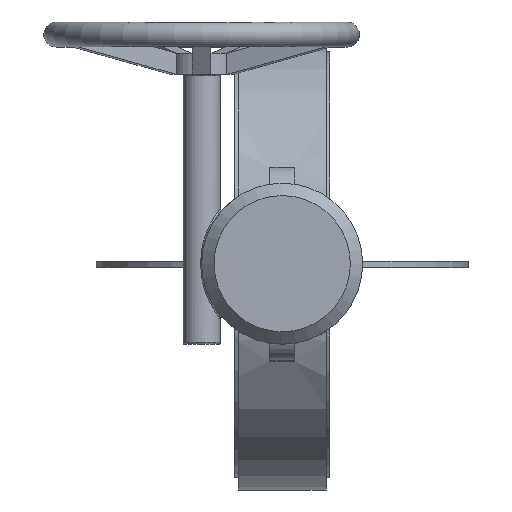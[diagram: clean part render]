
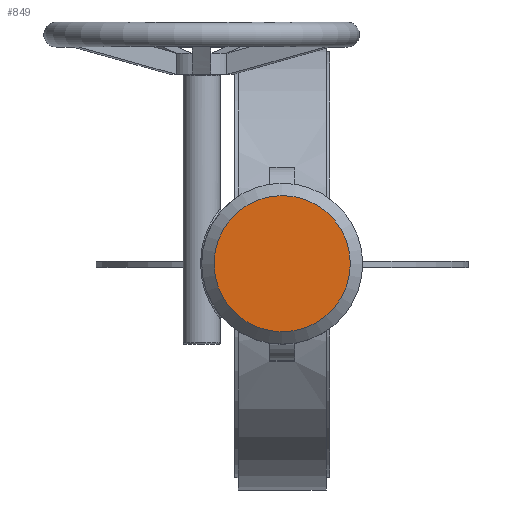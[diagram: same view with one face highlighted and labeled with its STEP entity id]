
A CAD part, top view. The second image highlights one B-rep face of the part: STEP entity #849.
In plain terms, the highlighted planar face has unit normal (0, 0, 1).
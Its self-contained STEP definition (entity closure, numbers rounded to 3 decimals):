
#849=ADVANCED_FACE('',(#2633),#2635,.T.);
#2633=FACE_BOUND('',#2634,.T.);
#2634=EDGE_LOOP('',(#3377));
#2635=PLANE('',#2636);
#2636=AXIS2_PLACEMENT_3D('',#2637,#2638,#2639);
#2637=CARTESIAN_POINT('',(0.,0.,384.));
#2638=DIRECTION('',(0.,0.,1.));
#2639=DIRECTION('',(-1.,0.,0.));
#3377=ORIENTED_EDGE('',*,*,#3747,.T.);
#3747=EDGE_CURVE('',#4163,#4163,#4164,.T.);
#4163=VERTEX_POINT('',#5953);
#4164=CIRCLE('',#5954,55.);
#5953=CARTESIAN_POINT('',(-55.,0.,384.));
#5954=AXIS2_PLACEMENT_3D('',#5955,#5956,#5957);
#5955=CARTESIAN_POINT('',(0.,0.,384.));
#5956=DIRECTION('',(0.,0.,1.));
#5957=DIRECTION('',(-1.,0.,0.));
